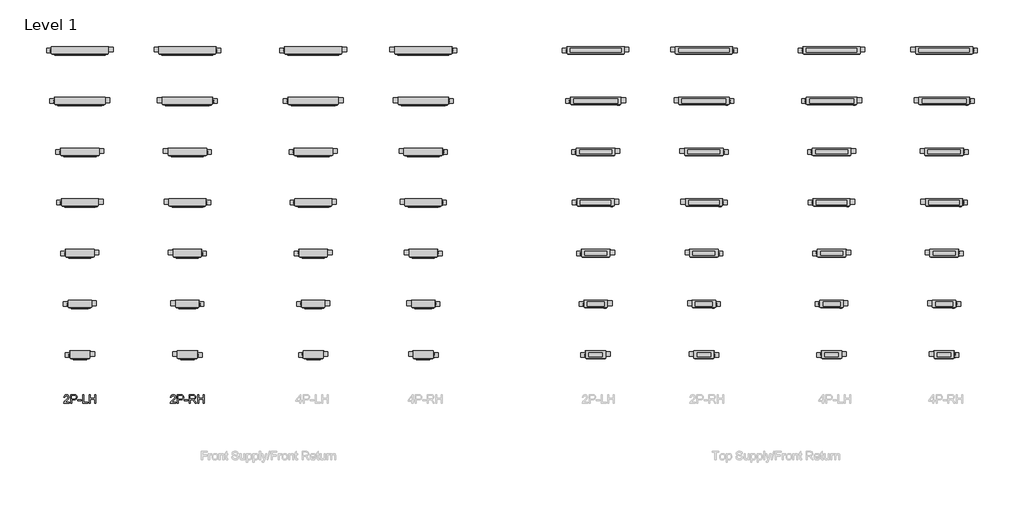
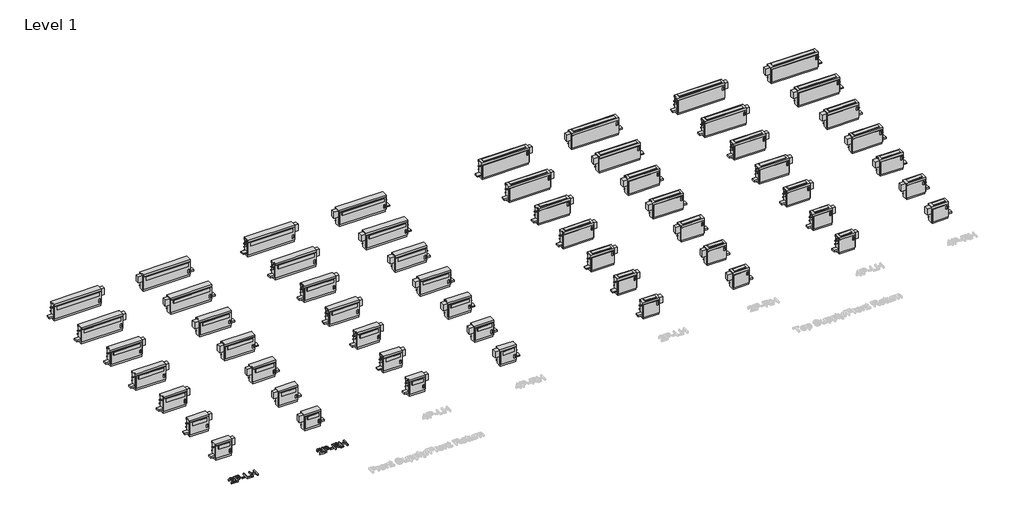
# One storey, part 1 of 3: 58 proxies.
"""IFC4 building model written with IfcOpenShell, lengths in millimetres."""

from ifc_helpers import new_model, si_unit, origin, origin_with_axes, place, context, project, spatial, polyline, outline, extrude, transform, mapped, element, save
from components import fha_02_94c6c80d, fha_02_6b9d32cf, fha_02_43abc2e7, fha_02_d0d8a334, fha_02_b8cbda28, fha_02_48b6a298, fha_02_fc1f7e35, fha_02_802e25d1, fha_03_051e9402, fha_03_dd271106, fha_03_7d003db8, fha_03_dce14b14, fha_03_b07dfba9, fha_03_0a466d53, fha_03_22e4d523, fha_03_e5284e9b, fha_04_7ede1e6b, fha_04_9694f687, fha_04_ae905168, fha_04_b99a19b0, fha_04_8b7462a0, fha_04_1860a677, fha_04_cc32cb2f, fha_04_b0cafbec, fha_06_5fccc806, fha_06_5ad67739, fha_06_63c93824, fha_06_a003a1de, fha_06_ecc1758d, fha_06_32068518, fha_06_2580c875, fha_06_6cc8bb4f, fha_08_c3b81369, fha_08_85082c4c, fha_08_7497d612, fha_08_348aac9a, fha_08_e0f1e65a, fha_08_1924b849, fha_08_3f7fb936, fha_08_7689c4cf, fha_10_7997b192, fha_10_e1ab0dcf, fha_10_db376b64, fha_10_04a492d7, fha_10_318577b4, fha_10_918f5362, fha_10_a3db949a, fha_10_9c9e8b07, fha_12_ffb116b9, fha_12_b9f33cbb, fha_12_aa732288, fha_12_0b8164c2, fha_12_b28fb9b4, fha_12_9516c50a, fha_12_9ba54ef7, fha_12_c1f296c9

model = new_model("IFC4")

# Units and contexts
model_context = context("Model", 3, world=origin())
ifc_project = project(units=[si_unit("LENGTHUNIT", "METRE", prefix="MILLI")], contexts=[model_context])

# Site, building, storey
site = spatial("IfcSite", under=ifc_project)
building = spatial("IfcBuilding", under=site)
storey = spatial("IfcBuildingStorey", under=building, Name="Level 1", Elevation=0.0)

# Proxies
placement = place(None, origin())
element("IfcBuildingElementProxy", 1, Name="24\" Arial", ObjectType="24\" Arial", at=placement, inside=storey, context=model_context, shape_type="SweptSolid", body=[
    extrude(outline(polyline([(-19722.253563, -2640.538898), (-19722.253563, -2672.4337764), (-19889.701675, -2672.4337764), (-19886.2754673, -2650.4437528), (-19878.4107634, -2633.2582067), (-19866.9018205, -2616.5865918), (-19826.9709277, -2579.6146965), (-19792.5531145, -2549.0435801), (-19771.9024266, -2526.4773306), (-19761.5770826, -2508.1626934), (-19758.1353013, -2490.3464136), (-19761.3824117, -2474.3756138), (-19771.123743, -2461.0990592), (-19786.0978278, -2452.1519851), (-19805.0431987, -2449.1696271), (-19824.9385636, -2452.0819036), (-19840.3954322, -2460.8187331), (-19850.3703686, -2474.6948741), (-19853.8199367, -2493.025085), (-19885.7148152, -2489.0382252), (-19877.9824875, -2458.1867827), (-19861.2641515, -2435.6516806), (-19836.4319329, -2421.8689816), (-19804.3579572, -2417.2747487), (-19772.0503764, -2422.3829128), (-19747.2648788, -2437.7074052), (-19731.4965368, -2460.6007017), (-19726.2404228, -2488.4152784), (-19731.9092391, -2518.6593477), (-19750.7533812, -2549.9312793), (-19796.4465323, -2593.6310005), (-19833.1381014, -2624.3111326), (-19847.5281736, -2640.538898), (-19722.253563, -2640.538898)])), origin_with_axes(), (0.0, 0.0, 1.0), 50.8),
    extrude(outline(polyline([(-19678.3981051, -2672.4337764), (-19678.3981051, -2417.2747487), (-19583.834774, -2417.2747487), (-19545.7104271, -2419.7042414), (-19528.7117651, -2424.2439665), (-19514.7188215, -2431.6336734), (-19503.4512705, -2442.2081961), (-19494.6287858, -2456.3023685), (-19488.9288222, -2472.9272624), (-19487.0288343, -2491.0939498), (-19492.1603589, -2521.1667088), (-19507.5549328, -2546.2247456), (-19519.8834402, -2556.0906663), (-19536.3428639, -2563.1377525), (-19556.9332038, -2567.3660042), (-19581.6544601, -2568.7754214), (-19646.5032266, -2568.7754214), (-19646.5032266, -2672.4337764), (-19678.3981051, -2672.4337764)]), holes=[polyline([(-19646.5032266, -2536.8805429), (-19579.7856195, -2536.8805429), (-19551.5038327, -2533.9526928), (-19532.8154274, -2525.1691422), (-19522.3966414, -2511.0749699), (-19518.9237127, -2492.2152541), (-19520.9716505, -2477.8874767), (-19527.1154638, -2465.8023079), (-19536.5920426, -2456.707284), (-19548.6382773, -2451.3499411), (-19580.5331557, -2449.1696271), (-19646.5032266, -2449.1696271), (-19646.5032266, -2536.8805429)])]), origin_with_axes(), (0.0, 0.0, 1.0), 50.8),
    extrude(outline(polyline([(-19463.1076754, -2596.6834401), (-19463.1076754, -2564.7885616), (-19363.4361802, -2564.7885616), (-19363.4361802, -2596.6834401), (-19463.1076754, -2596.6834401)])), origin_with_axes(), (0.0, 0.0, 1.0), 50.8),
    extrude(outline(polyline([(-19323.5675821, -2672.4337764), (-19323.5675821, -2417.2747487), (-19291.6727036, -2417.2747487), (-19291.6727036, -2640.538898), (-19164.0931897, -2640.538898), (-19164.0931897, -2672.4337764), (-19323.5675821, -2672.4337764)])), origin_with_axes(), (0.0, 0.0, 1.0), 50.8),
    extrude(outline(polyline([(-19128.2114515, -2672.4337764), (-19128.2114515, -2417.2747487), (-19096.316573, -2417.2747487), (-19096.316573, -2520.9331037), (-18960.7633395, -2520.9331037), (-18960.7633395, -2417.2747487), (-18928.868461, -2417.2747487), (-18928.868461, -2672.4337764), (-18960.7633395, -2672.4337764), (-18960.7633395, -2552.8279822), (-19096.316573, -2552.8279822), (-19096.316573, -2672.4337764), (-19128.2114515, -2672.4337764)])), origin_with_axes(), (0.0, 0.0, 1.0), 50.8),
])
element("IfcBuildingElementProxy", 2, Name="24\" Arial", ObjectType="24\" Arial", at=placement, inside=storey, context=model_context, shape_type="SweptSolid", body=[
    extrude(outline(polyline([(-16520.9749359, -2640.538898), (-16520.9749359, -2672.4337764), (-16688.4230479, -2672.4337764), (-16684.9968402, -2650.4437528), (-16677.1321363, -2633.2582067), (-16665.6231934, -2616.5865918), (-16625.6923006, -2579.6146965), (-16591.2744874, -2549.0435801), (-16570.6237995, -2526.4773306), (-16560.2984555, -2508.1626934), (-16556.8566742, -2490.3464136), (-16560.1037846, -2474.3756138), (-16569.8451159, -2461.0990592), (-16584.8192007, -2452.1519851), (-16603.7645716, -2449.1696271), (-16623.6599365, -2452.0819036), (-16639.1168051, -2460.8187331), (-16649.0917415, -2474.6948741), (-16652.5413096, -2493.025085), (-16684.4361881, -2489.0382252), (-16676.7038604, -2458.1867827), (-16659.9855244, -2435.6516806), (-16635.1533058, -2421.8689816), (-16603.0793301, -2417.2747487), (-16570.7717494, -2422.3829128), (-16545.9862517, -2437.7074052), (-16530.2179097, -2460.6007017), (-16524.9617957, -2488.4152784), (-16530.630612, -2518.6593477), (-16549.4747541, -2549.9312793), (-16595.1679052, -2593.6310005), (-16631.8594744, -2624.3111326), (-16646.2495465, -2640.538898), (-16520.9749359, -2640.538898)])), origin_with_axes(), (0.0, 0.0, 1.0), 50.8),
    extrude(outline(polyline([(-16477.119478, -2672.4337764), (-16477.119478, -2417.2747487), (-16382.5561469, -2417.2747487), (-16344.4318, -2419.7042414), (-16327.433138, -2424.2439665), (-16313.4401944, -2431.6336734), (-16302.1726434, -2442.2081961), (-16293.3501587, -2456.3023685), (-16287.6501951, -2472.9272624), (-16285.7502072, -2491.0939498), (-16290.8817318, -2521.1667088), (-16306.2763057, -2546.2247456), (-16318.6048131, -2556.0906663), (-16335.0642368, -2563.1377525), (-16355.6545768, -2567.3660042), (-16380.375833, -2568.7754214), (-16445.2245995, -2568.7754214), (-16445.2245995, -2672.4337764), (-16477.119478, -2672.4337764)]), holes=[polyline([(-16445.2245995, -2536.8805429), (-16378.5069924, -2536.8805429), (-16350.2252057, -2533.9526928), (-16331.5368003, -2525.1691422), (-16321.1180143, -2511.0749699), (-16317.6450857, -2492.2152541), (-16319.6930234, -2477.8874767), (-16325.8368367, -2465.8023079), (-16335.3134155, -2456.707284), (-16347.3596502, -2451.3499411), (-16379.2545286, -2449.1696271), (-16445.2245995, -2449.1696271), (-16445.2245995, -2536.8805429)])]), origin_with_axes(), (0.0, 0.0, 1.0), 50.8),
    extrude(outline(polyline([(-16261.8290483, -2596.6834401), (-16261.8290483, -2564.7885616), (-16162.1575531, -2564.7885616), (-16162.1575531, -2596.6834401), (-16261.8290483, -2596.6834401)])), origin_with_axes(), (0.0, 0.0, 1.0), 50.8),
    extrude(outline(polyline([(-16122.288955, -2672.4337764), (-16122.288955, -2417.2747487), (-16012.3388368, -2417.2747487), (-15982.7877959, -2418.9956393), (-15961.2883429, -2424.1583113), (-15945.5745087, -2433.689398), (-15933.3803242, -2448.5155329), (-15925.5545545, -2466.9002517), (-15922.9459646, -2487.10709), (-15927.2676583, -2512.2429952), (-15940.2327395, -2533.0805672), (-15962.23055, -2548.3583385), (-15993.6504315, -2556.814842), (-15975.5226783, -2570.4573779), (-15949.6703842, -2603.2866766), (-15907.1231147, -2672.4337764), (-15944.188452, -2672.4337764), (-15977.3915188, -2619.5455893), (-16001.3749724, -2584.5359766), (-16018.2256845, -2567.9967378), (-16033.3944402, -2561.9230061), (-16051.8959615, -2560.8017018), (-16090.3940765, -2560.8017018), (-16090.3940765, -2672.4337764), (-16122.288955, -2672.4337764)]), holes=[polyline([(-16090.3940765, -2528.9068233), (-16019.0043681, -2528.9068233), (-15982.593125, -2524.3904587), (-15970.6169719, -2518.5191847), (-15961.9112897, -2509.9380919), (-15956.6084547, -2499.5582401), (-15954.840843, -2488.290689), (-15958.2125428, -2472.7325915), (-15968.3276422, -2460.1957863), (-15985.7312197, -2451.9261669), (-16010.9683538, -2449.1696271), (-16090.3940765, -2449.1696271), (-16090.3940765, -2528.9068233)])]), origin_with_axes(), (0.0, 0.0, 1.0), 50.8),
    extrude(outline(polyline([(-15867.1299272, -2672.4337764), (-15867.1299272, -2417.2747487), (-15835.2350488, -2417.2747487), (-15835.2350488, -2520.9331037), (-15699.6818152, -2520.9331037), (-15699.6818152, -2417.2747487), (-15667.7869368, -2417.2747487), (-15667.7869368, -2672.4337764), (-15699.6818152, -2672.4337764), (-15699.6818152, -2552.8279822), (-15835.2350488, -2552.8279822), (-15835.2350488, -2672.4337764), (-15867.1299272, -2672.4337764)])), origin_with_axes(), (0.0, 0.0, 1.0), 50.8),
])
fha_02_shape = fha_02_94c6c80d(model_context)
element("IfcBuildingElementProxy", 3, Name="Vertical_Fan_Coil_Unit_-_FHA_-_IEC_-_4-Pipe_TS-FR_RH_2022 : FHA 02", ObjectType="Vertical_Fan_Coil_Unit_-_FHA_-_IEC_-_4-Pipe_TS-FR_RH_2022 : FHA 02", at=placement, inside=storey, context=model_context, shape_type="MappedRepresentation", body=[
    mapped(fha_02_shape, transform((6404.5084149, -1345.1156597, 0.0), x_axis=(1.0, 0.0, 0.0), y_axis=(0.0, 1.0, 0.0), z_axis=(0.0, 0.0, 1.0))),
])
fha_02_2_shape = fha_02_6b9d32cf(model_context)
element("IfcBuildingElementProxy", 4, Name="Vertical_Fan_Coil_Unit_-_FHA_-_IEC_-_2-Pipe_FS-FR_LH_2022 : FHA 02", ObjectType="Vertical_Fan_Coil_Unit_-_FHA_-_IEC_-_2-Pipe_FS-FR_LH_2022 : FHA 02", at=placement, inside=storey, context=model_context, shape_type="MappedRepresentation", body=[
    mapped(fha_02_2_shape, transform((-19554.2915851, -1345.1156597, 0.0), x_axis=(1.0, 0.0, 0.0), y_axis=(0.0, 1.0, 0.0), z_axis=(0.0, 0.0, 1.0))),
])
fha_02_3_shape = fha_02_43abc2e7(model_context)
element("IfcBuildingElementProxy", 5, Name="Vertical_Fan_Coil_Unit_-_FHA_-_IEC_-_2-Pipe_FS-FR_RH_2022 : FHA 02", ObjectType="Vertical_Fan_Coil_Unit_-_FHA_-_IEC_-_2-Pipe_FS-FR_RH_2022 : FHA 02", at=placement, inside=storey, context=model_context, shape_type="MappedRepresentation", body=[
    mapped(fha_02_3_shape, transform((-16328.4915851, -1345.1156597, 0.0), x_axis=(1.0, 0.0, 0.0), y_axis=(0.0, 1.0, 0.0), z_axis=(0.0, 0.0, 1.0))),
])
fha_02_4_shape = fha_02_d0d8a334(model_context)
element("IfcBuildingElementProxy", 6, Name="Vertical_Fan_Coil_Unit_-_FHA_-_IEC_-_2-Pipe_TS-FR_LH_2022 : FHA 02", ObjectType="Vertical_Fan_Coil_Unit_-_FHA_-_IEC_-_2-Pipe_TS-FR_LH_2022 : FHA 02", at=placement, inside=storey, context=model_context, shape_type="MappedRepresentation", body=[
    mapped(fha_02_4_shape, transform((-4060.2915851, -1345.1156597, 0.0), x_axis=(1.0, 0.0, 0.0), y_axis=(0.0, 1.0, 0.0), z_axis=(0.0, 0.0, 1.0))),
])
fha_02_5_shape = fha_02_b8cbda28(model_context)
element("IfcBuildingElementProxy", 7, Name="Vertical_Fan_Coil_Unit_-_FHA_-_IEC_-_2-Pipe_TS-FR_RH_2022 : FHA 02", ObjectType="Vertical_Fan_Coil_Unit_-_FHA_-_IEC_-_2-Pipe_TS-FR_RH_2022 : FHA 02", at=placement, inside=storey, context=model_context, shape_type="MappedRepresentation", body=[
    mapped(fha_02_5_shape, transform((-809.0915851, -1345.1156597, 0.0), x_axis=(1.0, 0.0, 0.0), y_axis=(0.0, 1.0, 0.0), z_axis=(0.0, 0.0, 1.0))),
])
fha_02_6_shape = fha_02_48b6a298(model_context)
element("IfcBuildingElementProxy", 8, Name="Vertical_Fan_Coil_Unit_-_FHA_-_IEC_-_4-Pipe_FS-FR_LH_2022 : FHA 02", ObjectType="Vertical_Fan_Coil_Unit_-_FHA_-_IEC_-_4-Pipe_FS-FR_LH_2022 : FHA 02", at=placement, inside=storey, context=model_context, shape_type="MappedRepresentation", body=[
    mapped(fha_02_6_shape, transform((-12543.8915851, -1345.1156597, 0.0), x_axis=(1.0, 0.0, 0.0), y_axis=(0.0, 1.0, 0.0), z_axis=(0.0, 0.0, 1.0))),
])
fha_02_7_shape = fha_02_fc1f7e35(model_context)
element("IfcBuildingElementProxy", 9, Name="Vertical_Fan_Coil_Unit_-_FHA_-_IEC_-_4-Pipe_FS-FR_RH_2022 : FHA 02", ObjectType="Vertical_Fan_Coil_Unit_-_FHA_-_IEC_-_4-Pipe_FS-FR_RH_2022 : FHA 02", at=placement, inside=storey, context=model_context, shape_type="MappedRepresentation", body=[
    mapped(fha_02_7_shape, transform((-9241.8915851, -1345.1156597, 0.0), x_axis=(1.0, 0.0, 0.0), y_axis=(0.0, 1.0, 0.0), z_axis=(0.0, 0.0, 1.0))),
])
fha_02_8_shape = fha_02_802e25d1(model_context)
element("IfcBuildingElementProxy", 10, Name="Vertical_Fan_Coil_Unit_-_FHA_-_IEC_-_4-Pipe_TS-FR_LH_2022 : FHA 02", ObjectType="Vertical_Fan_Coil_Unit_-_FHA_-_IEC_-_4-Pipe_TS-FR_LH_2022 : FHA 02", at=placement, inside=storey, context=model_context, shape_type="MappedRepresentation", body=[
    mapped(fha_02_8_shape, transform((3026.3084149, -1345.1156597, 0.0), x_axis=(1.0, 0.0, 0.0), y_axis=(0.0, 1.0, 0.0), z_axis=(0.0, 0.0, 1.0))),
])
fha_03_shape = fha_03_051e9402(model_context)
element("IfcBuildingElementProxy", 11, Name="Vertical_Fan_Coil_Unit_-_FHA_-_IEC_-_4-Pipe_TS-FR_RH_2022 : FHA 03", ObjectType="Vertical_Fan_Coil_Unit_-_FHA_-_IEC_-_4-Pipe_TS-FR_RH_2022 : FHA 03", at=placement, inside=storey, context=model_context, shape_type="MappedRepresentation", body=[
    mapped(fha_03_shape, transform((6404.5084149, 178.8843403, 0.0), x_axis=(1.0, 0.0, 0.0), y_axis=(0.0, 1.0, 0.0), z_axis=(0.0, 0.0, 1.0))),
])
fha_03_2_shape = fha_03_dd271106(model_context)
element("IfcBuildingElementProxy", 12, Name="Vertical_Fan_Coil_Unit_-_FHA_-_IEC_-_2-Pipe_FS-FR_LH_2022 : FHA 03", ObjectType="Vertical_Fan_Coil_Unit_-_FHA_-_IEC_-_2-Pipe_FS-FR_LH_2022 : FHA 03", at=placement, inside=storey, context=model_context, shape_type="MappedRepresentation", body=[
    mapped(fha_03_2_shape, transform((-19554.2915851, 178.8843403, 0.0), x_axis=(1.0, 0.0, 0.0), y_axis=(0.0, 1.0, 0.0), z_axis=(0.0, 0.0, 1.0))),
])
fha_03_3_shape = fha_03_7d003db8(model_context)
element("IfcBuildingElementProxy", 13, Name="Vertical_Fan_Coil_Unit_-_FHA_-_IEC_-_2-Pipe_FS-FR_RH_2022 : FHA 03", ObjectType="Vertical_Fan_Coil_Unit_-_FHA_-_IEC_-_2-Pipe_FS-FR_RH_2022 : FHA 03", at=placement, inside=storey, context=model_context, shape_type="MappedRepresentation", body=[
    mapped(fha_03_3_shape, transform((-16328.4915851, 178.8843403, 0.0), x_axis=(1.0, 0.0, 0.0), y_axis=(0.0, 1.0, 0.0), z_axis=(0.0, 0.0, 1.0))),
])
fha_03_4_shape = fha_03_dce14b14(model_context)
element("IfcBuildingElementProxy", 14, Name="Vertical_Fan_Coil_Unit_-_FHA_-_IEC_-_2-Pipe_TS-FR_LH_2022 : FHA 03", ObjectType="Vertical_Fan_Coil_Unit_-_FHA_-_IEC_-_2-Pipe_TS-FR_LH_2022 : FHA 03", at=placement, inside=storey, context=model_context, shape_type="MappedRepresentation", body=[
    mapped(fha_03_4_shape, transform((-4060.2915851, 178.8843403, 0.0), x_axis=(1.0, 0.0, 0.0), y_axis=(0.0, 1.0, 0.0), z_axis=(0.0, 0.0, 1.0))),
])
fha_03_5_shape = fha_03_b07dfba9(model_context)
element("IfcBuildingElementProxy", 15, Name="Vertical_Fan_Coil_Unit_-_FHA_-_IEC_-_2-Pipe_TS-FR_RH_2022 : FHA 03", ObjectType="Vertical_Fan_Coil_Unit_-_FHA_-_IEC_-_2-Pipe_TS-FR_RH_2022 : FHA 03", at=placement, inside=storey, context=model_context, shape_type="MappedRepresentation", body=[
    mapped(fha_03_5_shape, transform((-809.0915851, 178.8843403, 0.0), x_axis=(1.0, 0.0, 0.0), y_axis=(0.0, 1.0, 0.0), z_axis=(0.0, 0.0, 1.0))),
])
fha_03_6_shape = fha_03_0a466d53(model_context)
element("IfcBuildingElementProxy", 16, Name="Vertical_Fan_Coil_Unit_-_FHA_-_IEC_-_4-Pipe_FS-FR_LH_2022 : FHA 03", ObjectType="Vertical_Fan_Coil_Unit_-_FHA_-_IEC_-_4-Pipe_FS-FR_LH_2022 : FHA 03", at=placement, inside=storey, context=model_context, shape_type="MappedRepresentation", body=[
    mapped(fha_03_6_shape, transform((-12543.8915851, 178.8843403, 0.0), x_axis=(1.0, 0.0, 0.0), y_axis=(0.0, 1.0, 0.0), z_axis=(0.0, 0.0, 1.0))),
])
fha_03_7_shape = fha_03_22e4d523(model_context)
element("IfcBuildingElementProxy", 17, Name="Vertical_Fan_Coil_Unit_-_FHA_-_IEC_-_4-Pipe_FS-FR_RH_2022 : FHA 03", ObjectType="Vertical_Fan_Coil_Unit_-_FHA_-_IEC_-_4-Pipe_FS-FR_RH_2022 : FHA 03", at=placement, inside=storey, context=model_context, shape_type="MappedRepresentation", body=[
    mapped(fha_03_7_shape, transform((-9241.8915851, 178.8843403, 0.0), x_axis=(1.0, 0.0, 0.0), y_axis=(0.0, 1.0, 0.0), z_axis=(0.0, 0.0, 1.0))),
])
fha_03_8_shape = fha_03_e5284e9b(model_context)
element("IfcBuildingElementProxy", 18, Name="Vertical_Fan_Coil_Unit_-_FHA_-_IEC_-_4-Pipe_TS-FR_LH_2022 : FHA 03", ObjectType="Vertical_Fan_Coil_Unit_-_FHA_-_IEC_-_4-Pipe_TS-FR_LH_2022 : FHA 03", at=placement, inside=storey, context=model_context, shape_type="MappedRepresentation", body=[
    mapped(fha_03_8_shape, transform((3026.3084149, 178.8843403, 0.0), x_axis=(1.0, 0.0, 0.0), y_axis=(0.0, 1.0, 0.0), z_axis=(0.0, 0.0, 1.0))),
])
fha_04_shape = fha_04_7ede1e6b(model_context)
element("IfcBuildingElementProxy", 19, Name="Vertical_Fan_Coil_Unit_-_FHA_-_IEC_-_4-Pipe_TS-FR_RH_2022 : FHA 04", ObjectType="Vertical_Fan_Coil_Unit_-_FHA_-_IEC_-_4-Pipe_TS-FR_RH_2022 : FHA 04", at=placement, inside=storey, context=model_context, shape_type="MappedRepresentation", body=[
    mapped(fha_04_shape, transform((6404.5084149, 1702.8843403, 0.0), x_axis=(1.0, 0.0, 0.0), y_axis=(0.0, 1.0, 0.0), z_axis=(0.0, 0.0, 1.0))),
])
fha_04_2_shape = fha_04_9694f687(model_context)
element("IfcBuildingElementProxy", 20, Name="Vertical_Fan_Coil_Unit_-_FHA_-_IEC_-_2-Pipe_FS-FR_LH_2022 : FHA 04", ObjectType="Vertical_Fan_Coil_Unit_-_FHA_-_IEC_-_2-Pipe_FS-FR_LH_2022 : FHA 04", at=placement, inside=storey, context=model_context, shape_type="MappedRepresentation", body=[
    mapped(fha_04_2_shape, transform((-19554.2915851, 1702.8843403, 0.0), x_axis=(1.0, 0.0, 0.0), y_axis=(0.0, 1.0, 0.0), z_axis=(0.0, 0.0, 1.0))),
])
fha_04_3_shape = fha_04_ae905168(model_context)
element("IfcBuildingElementProxy", 21, Name="Vertical_Fan_Coil_Unit_-_FHA_-_IEC_-_2-Pipe_FS-FR_RH_2022 : FHA 04", ObjectType="Vertical_Fan_Coil_Unit_-_FHA_-_IEC_-_2-Pipe_FS-FR_RH_2022 : FHA 04", at=placement, inside=storey, context=model_context, shape_type="MappedRepresentation", body=[
    mapped(fha_04_3_shape, transform((-16328.4915851, 1702.8843403, 0.0), x_axis=(1.0, 0.0, 0.0), y_axis=(0.0, 1.0, 0.0), z_axis=(0.0, 0.0, 1.0))),
])
fha_04_4_shape = fha_04_b99a19b0(model_context)
element("IfcBuildingElementProxy", 22, Name="Vertical_Fan_Coil_Unit_-_FHA_-_IEC_-_2-Pipe_TS-FR_LH_2022 : FHA 04", ObjectType="Vertical_Fan_Coil_Unit_-_FHA_-_IEC_-_2-Pipe_TS-FR_LH_2022 : FHA 04", at=placement, inside=storey, context=model_context, shape_type="MappedRepresentation", body=[
    mapped(fha_04_4_shape, transform((-4060.2915851, 1702.8843403, 0.0), x_axis=(1.0, 0.0, 0.0), y_axis=(0.0, 1.0, 0.0), z_axis=(0.0, 0.0, 1.0))),
])
fha_04_5_shape = fha_04_8b7462a0(model_context)
element("IfcBuildingElementProxy", 23, Name="Vertical_Fan_Coil_Unit_-_FHA_-_IEC_-_2-Pipe_TS-FR_RH_2022 : FHA 04", ObjectType="Vertical_Fan_Coil_Unit_-_FHA_-_IEC_-_2-Pipe_TS-FR_RH_2022 : FHA 04", at=placement, inside=storey, context=model_context, shape_type="MappedRepresentation", body=[
    mapped(fha_04_5_shape, transform((-809.0915851, 1702.8843403, 0.0), x_axis=(1.0, 0.0, 0.0), y_axis=(0.0, 1.0, 0.0), z_axis=(0.0, 0.0, 1.0))),
])
fha_04_6_shape = fha_04_1860a677(model_context)
element("IfcBuildingElementProxy", 24, Name="Vertical_Fan_Coil_Unit_-_FHA_-_IEC_-_4-Pipe_FS-FR_LH_2022 : FHA 04", ObjectType="Vertical_Fan_Coil_Unit_-_FHA_-_IEC_-_4-Pipe_FS-FR_LH_2022 : FHA 04", at=placement, inside=storey, context=model_context, shape_type="MappedRepresentation", body=[
    mapped(fha_04_6_shape, transform((-12543.8915851, 1702.8843403, 0.0), x_axis=(1.0, 0.0, 0.0), y_axis=(0.0, 1.0, 0.0), z_axis=(0.0, 0.0, 1.0))),
])
fha_04_7_shape = fha_04_cc32cb2f(model_context)
element("IfcBuildingElementProxy", 25, Name="Vertical_Fan_Coil_Unit_-_FHA_-_IEC_-_4-Pipe_FS-FR_RH_2022 : FHA 04", ObjectType="Vertical_Fan_Coil_Unit_-_FHA_-_IEC_-_4-Pipe_FS-FR_RH_2022 : FHA 04", at=placement, inside=storey, context=model_context, shape_type="MappedRepresentation", body=[
    mapped(fha_04_7_shape, transform((-9241.8915851, 1702.8843403, 0.0), x_axis=(1.0, 0.0, 0.0), y_axis=(0.0, 1.0, 0.0), z_axis=(0.0, 0.0, 1.0))),
])
fha_04_8_shape = fha_04_b0cafbec(model_context)
element("IfcBuildingElementProxy", 26, Name="Vertical_Fan_Coil_Unit_-_FHA_-_IEC_-_4-Pipe_TS-FR_LH_2022 : FHA 04", ObjectType="Vertical_Fan_Coil_Unit_-_FHA_-_IEC_-_4-Pipe_TS-FR_LH_2022 : FHA 04", at=placement, inside=storey, context=model_context, shape_type="MappedRepresentation", body=[
    mapped(fha_04_8_shape, transform((3026.3084149, 1702.8843403, 0.0), x_axis=(1.0, 0.0, 0.0), y_axis=(0.0, 1.0, 0.0), z_axis=(0.0, 0.0, 1.0))),
])
fha_06_shape = fha_06_5fccc806(model_context)
element("IfcBuildingElementProxy", 27, Name="Vertical_Fan_Coil_Unit_-_FHA_-_IEC_-_4-Pipe_TS-FR_RH_2022 : FHA 06", ObjectType="Vertical_Fan_Coil_Unit_-_FHA_-_IEC_-_4-Pipe_TS-FR_RH_2022 : FHA 06", at=placement, inside=storey, context=model_context, shape_type="MappedRepresentation", body=[
    mapped(fha_06_shape, transform((6404.5084149, 3226.8843403, 0.0), x_axis=(1.0, 0.0, 0.0), y_axis=(0.0, 1.0, 0.0), z_axis=(0.0, 0.0, 1.0))),
])
fha_06_2_shape = fha_06_5ad67739(model_context)
element("IfcBuildingElementProxy", 28, Name="Vertical_Fan_Coil_Unit_-_FHA_-_IEC_-_2-Pipe_FS-FR_LH_2022 : FHA 06", ObjectType="Vertical_Fan_Coil_Unit_-_FHA_-_IEC_-_2-Pipe_FS-FR_LH_2022 : FHA 06", at=placement, inside=storey, context=model_context, shape_type="MappedRepresentation", body=[
    mapped(fha_06_2_shape, transform((-19554.2915851, 3226.8843403, 0.0), x_axis=(1.0, 0.0, 0.0), y_axis=(0.0, 1.0, 0.0), z_axis=(0.0, 0.0, 1.0))),
])
fha_06_3_shape = fha_06_63c93824(model_context)
element("IfcBuildingElementProxy", 29, Name="Vertical_Fan_Coil_Unit_-_FHA_-_IEC_-_2-Pipe_FS-FR_RH_2022 : FHA 06", ObjectType="Vertical_Fan_Coil_Unit_-_FHA_-_IEC_-_2-Pipe_FS-FR_RH_2022 : FHA 06", at=placement, inside=storey, context=model_context, shape_type="MappedRepresentation", body=[
    mapped(fha_06_3_shape, transform((-16328.4915851, 3226.8843403, 0.0), x_axis=(1.0, 0.0, 0.0), y_axis=(0.0, 1.0, 0.0), z_axis=(0.0, 0.0, 1.0))),
])
fha_06_4_shape = fha_06_a003a1de(model_context)
element("IfcBuildingElementProxy", 30, Name="Vertical_Fan_Coil_Unit_-_FHA_-_IEC_-_2-Pipe_TS-FR_LH_2022 : FHA 06", ObjectType="Vertical_Fan_Coil_Unit_-_FHA_-_IEC_-_2-Pipe_TS-FR_LH_2022 : FHA 06", at=placement, inside=storey, context=model_context, shape_type="MappedRepresentation", body=[
    mapped(fha_06_4_shape, transform((-4060.2915851, 3226.8843403, 0.0), x_axis=(1.0, 0.0, 0.0), y_axis=(0.0, 1.0, 0.0), z_axis=(0.0, 0.0, 1.0))),
])
fha_06_5_shape = fha_06_ecc1758d(model_context)
element("IfcBuildingElementProxy", 31, Name="Vertical_Fan_Coil_Unit_-_FHA_-_IEC_-_2-Pipe_TS-FR_RH_2022 : FHA 06", ObjectType="Vertical_Fan_Coil_Unit_-_FHA_-_IEC_-_2-Pipe_TS-FR_RH_2022 : FHA 06", at=placement, inside=storey, context=model_context, shape_type="MappedRepresentation", body=[
    mapped(fha_06_5_shape, transform((-809.0915851, 3226.8843403, 0.0), x_axis=(1.0, 0.0, 0.0), y_axis=(0.0, 1.0, 0.0), z_axis=(0.0, 0.0, 1.0))),
])
fha_06_6_shape = fha_06_32068518(model_context)
element("IfcBuildingElementProxy", 32, Name="Vertical_Fan_Coil_Unit_-_FHA_-_IEC_-_4-Pipe_FS-FR_LH_2022 : FHA 06", ObjectType="Vertical_Fan_Coil_Unit_-_FHA_-_IEC_-_4-Pipe_FS-FR_LH_2022 : FHA 06", at=placement, inside=storey, context=model_context, shape_type="MappedRepresentation", body=[
    mapped(fha_06_6_shape, transform((-12543.8915851, 3226.8843403, 0.0), x_axis=(1.0, 0.0, 0.0), y_axis=(0.0, 1.0, 0.0), z_axis=(0.0, 0.0, 1.0))),
])
fha_06_7_shape = fha_06_2580c875(model_context)
element("IfcBuildingElementProxy", 33, Name="Vertical_Fan_Coil_Unit_-_FHA_-_IEC_-_4-Pipe_FS-FR_RH_2022 : FHA 06", ObjectType="Vertical_Fan_Coil_Unit_-_FHA_-_IEC_-_4-Pipe_FS-FR_RH_2022 : FHA 06", at=placement, inside=storey, context=model_context, shape_type="MappedRepresentation", body=[
    mapped(fha_06_7_shape, transform((-9241.8915851, 3226.8843403, 0.0), x_axis=(1.0, 0.0, 0.0), y_axis=(0.0, 1.0, 0.0), z_axis=(0.0, 0.0, 1.0))),
])
fha_06_8_shape = fha_06_6cc8bb4f(model_context)
element("IfcBuildingElementProxy", 34, Name="Vertical_Fan_Coil_Unit_-_FHA_-_IEC_-_4-Pipe_TS-FR_LH_2022 : FHA 06", ObjectType="Vertical_Fan_Coil_Unit_-_FHA_-_IEC_-_4-Pipe_TS-FR_LH_2022 : FHA 06", at=placement, inside=storey, context=model_context, shape_type="MappedRepresentation", body=[
    mapped(fha_06_8_shape, transform((3026.3084149, 3226.8843403, 0.0), x_axis=(1.0, 0.0, 0.0), y_axis=(0.0, 1.0, 0.0), z_axis=(0.0, 0.0, 1.0))),
])
fha_08_shape = fha_08_c3b81369(model_context)
element("IfcBuildingElementProxy", 35, Name="Vertical_Fan_Coil_Unit_-_FHA_-_IEC_-_4-Pipe_TS-FR_RH_2022 : FHA 08", ObjectType="Vertical_Fan_Coil_Unit_-_FHA_-_IEC_-_4-Pipe_TS-FR_RH_2022 : FHA 08", at=placement, inside=storey, context=model_context, shape_type="MappedRepresentation", body=[
    mapped(fha_08_shape, transform((6404.5084149, 4750.8843403, 0.0), x_axis=(1.0, 0.0, 0.0), y_axis=(0.0, 1.0, 0.0), z_axis=(0.0, 0.0, 1.0))),
])
fha_08_2_shape = fha_08_85082c4c(model_context)
element("IfcBuildingElementProxy", 36, Name="Vertical_Fan_Coil_Unit_-_FHA_-_IEC_-_2-Pipe_FS-FR_LH_2022 : FHA 08", ObjectType="Vertical_Fan_Coil_Unit_-_FHA_-_IEC_-_2-Pipe_FS-FR_LH_2022 : FHA 08", at=placement, inside=storey, context=model_context, shape_type="MappedRepresentation", body=[
    mapped(fha_08_2_shape, transform((-19554.2915851, 4750.8843403, 0.0), x_axis=(1.0, 0.0, 0.0), y_axis=(0.0, 1.0, 0.0), z_axis=(0.0, 0.0, 1.0))),
])
fha_08_3_shape = fha_08_7497d612(model_context)
element("IfcBuildingElementProxy", 37, Name="Vertical_Fan_Coil_Unit_-_FHA_-_IEC_-_2-Pipe_FS-FR_RH_2022 : FHA 08", ObjectType="Vertical_Fan_Coil_Unit_-_FHA_-_IEC_-_2-Pipe_FS-FR_RH_2022 : FHA 08", at=placement, inside=storey, context=model_context, shape_type="MappedRepresentation", body=[
    mapped(fha_08_3_shape, transform((-16328.4915851, 4750.8843403, 0.0), x_axis=(1.0, 0.0, 0.0), y_axis=(0.0, 1.0, 0.0), z_axis=(0.0, 0.0, 1.0))),
])
fha_08_4_shape = fha_08_348aac9a(model_context)
element("IfcBuildingElementProxy", 38, Name="Vertical_Fan_Coil_Unit_-_FHA_-_IEC_-_2-Pipe_TS-FR_LH_2022 : FHA 08", ObjectType="Vertical_Fan_Coil_Unit_-_FHA_-_IEC_-_2-Pipe_TS-FR_LH_2022 : FHA 08", at=placement, inside=storey, context=model_context, shape_type="MappedRepresentation", body=[
    mapped(fha_08_4_shape, transform((-4060.2915851, 4750.8843403, 0.0), x_axis=(1.0, 0.0, 0.0), y_axis=(0.0, 1.0, 0.0), z_axis=(0.0, 0.0, 1.0))),
])
fha_08_5_shape = fha_08_e0f1e65a(model_context)
element("IfcBuildingElementProxy", 39, Name="Vertical_Fan_Coil_Unit_-_FHA_-_IEC_-_2-Pipe_TS-FR_RH_2022 : FHA 08", ObjectType="Vertical_Fan_Coil_Unit_-_FHA_-_IEC_-_2-Pipe_TS-FR_RH_2022 : FHA 08", at=placement, inside=storey, context=model_context, shape_type="MappedRepresentation", body=[
    mapped(fha_08_5_shape, transform((-809.0915851, 4750.8843403, 0.0), x_axis=(1.0, 0.0, 0.0), y_axis=(0.0, 1.0, 0.0), z_axis=(0.0, 0.0, 1.0))),
])
fha_08_6_shape = fha_08_1924b849(model_context)
element("IfcBuildingElementProxy", 40, Name="Vertical_Fan_Coil_Unit_-_FHA_-_IEC_-_4-Pipe_FS-FR_LH_2022 : FHA 08", ObjectType="Vertical_Fan_Coil_Unit_-_FHA_-_IEC_-_4-Pipe_FS-FR_LH_2022 : FHA 08", at=placement, inside=storey, context=model_context, shape_type="MappedRepresentation", body=[
    mapped(fha_08_6_shape, transform((-12543.8915851, 4750.8843403, 0.0), x_axis=(1.0, 0.0, 0.0), y_axis=(0.0, 1.0, 0.0), z_axis=(0.0, 0.0, 1.0))),
])
fha_08_7_shape = fha_08_3f7fb936(model_context)
element("IfcBuildingElementProxy", 41, Name="Vertical_Fan_Coil_Unit_-_FHA_-_IEC_-_4-Pipe_FS-FR_RH_2022 : FHA 08", ObjectType="Vertical_Fan_Coil_Unit_-_FHA_-_IEC_-_4-Pipe_FS-FR_RH_2022 : FHA 08", at=placement, inside=storey, context=model_context, shape_type="MappedRepresentation", body=[
    mapped(fha_08_7_shape, transform((-9241.8915851, 4750.8843403, 0.0), x_axis=(1.0, 0.0, 0.0), y_axis=(0.0, 1.0, 0.0), z_axis=(0.0, 0.0, 1.0))),
])
fha_08_8_shape = fha_08_7689c4cf(model_context)
element("IfcBuildingElementProxy", 42, Name="Vertical_Fan_Coil_Unit_-_FHA_-_IEC_-_4-Pipe_TS-FR_LH_2022 : FHA 08", ObjectType="Vertical_Fan_Coil_Unit_-_FHA_-_IEC_-_4-Pipe_TS-FR_LH_2022 : FHA 08", at=placement, inside=storey, context=model_context, shape_type="MappedRepresentation", body=[
    mapped(fha_08_8_shape, transform((3026.3084149, 4750.8843403, 0.0), x_axis=(1.0, 0.0, 0.0), y_axis=(0.0, 1.0, 0.0), z_axis=(0.0, 0.0, 1.0))),
])
fha_10_shape = fha_10_7997b192(model_context)
element("IfcBuildingElementProxy", 43, Name="Vertical_Fan_Coil_Unit_-_FHA_-_IEC_-_4-Pipe_TS-FR_RH_2022 : FHA 10", ObjectType="Vertical_Fan_Coil_Unit_-_FHA_-_IEC_-_4-Pipe_TS-FR_RH_2022 : FHA 10", at=placement, inside=storey, context=model_context, shape_type="MappedRepresentation", body=[
    mapped(fha_10_shape, transform((6404.5084149, 6274.8843403, 0.0), x_axis=(1.0, 0.0, 0.0), y_axis=(0.0, 1.0, 0.0), z_axis=(0.0, 0.0, 1.0))),
])
fha_10_2_shape = fha_10_e1ab0dcf(model_context)
element("IfcBuildingElementProxy", 44, Name="Vertical_Fan_Coil_Unit_-_FHA_-_IEC_-_2-Pipe_FS-FR_LH_2022 : FHA 10", ObjectType="Vertical_Fan_Coil_Unit_-_FHA_-_IEC_-_2-Pipe_FS-FR_LH_2022 : FHA 10", at=placement, inside=storey, context=model_context, shape_type="MappedRepresentation", body=[
    mapped(fha_10_2_shape, transform((-19554.2915851, 6274.8843403, 0.0), x_axis=(1.0, 0.0, 0.0), y_axis=(0.0, 1.0, 0.0), z_axis=(0.0, 0.0, 1.0))),
])
fha_10_3_shape = fha_10_db376b64(model_context)
element("IfcBuildingElementProxy", 45, Name="Vertical_Fan_Coil_Unit_-_FHA_-_IEC_-_2-Pipe_FS-FR_RH_2022 : FHA 10", ObjectType="Vertical_Fan_Coil_Unit_-_FHA_-_IEC_-_2-Pipe_FS-FR_RH_2022 : FHA 10", at=placement, inside=storey, context=model_context, shape_type="MappedRepresentation", body=[
    mapped(fha_10_3_shape, transform((-16328.4915851, 6274.8843403, 0.0), x_axis=(1.0, 0.0, 0.0), y_axis=(0.0, 1.0, 0.0), z_axis=(0.0, 0.0, 1.0))),
])
fha_10_4_shape = fha_10_04a492d7(model_context)
element("IfcBuildingElementProxy", 46, Name="Vertical_Fan_Coil_Unit_-_FHA_-_IEC_-_2-Pipe_TS-FR_LH_2022 : FHA 10", ObjectType="Vertical_Fan_Coil_Unit_-_FHA_-_IEC_-_2-Pipe_TS-FR_LH_2022 : FHA 10", at=placement, inside=storey, context=model_context, shape_type="MappedRepresentation", body=[
    mapped(fha_10_4_shape, transform((-4060.2915851, 6274.8843403, 0.0), x_axis=(1.0, 0.0, 0.0), y_axis=(0.0, 1.0, 0.0), z_axis=(0.0, 0.0, 1.0))),
])
fha_10_5_shape = fha_10_318577b4(model_context)
element("IfcBuildingElementProxy", 47, Name="Vertical_Fan_Coil_Unit_-_FHA_-_IEC_-_2-Pipe_TS-FR_RH_2022 : FHA 10", ObjectType="Vertical_Fan_Coil_Unit_-_FHA_-_IEC_-_2-Pipe_TS-FR_RH_2022 : FHA 10", at=placement, inside=storey, context=model_context, shape_type="MappedRepresentation", body=[
    mapped(fha_10_5_shape, transform((-809.0915851, 6274.8843403, 0.0), x_axis=(1.0, 0.0, 0.0), y_axis=(0.0, 1.0, 0.0), z_axis=(0.0, 0.0, 1.0))),
])
fha_10_6_shape = fha_10_918f5362(model_context)
element("IfcBuildingElementProxy", 48, Name="Vertical_Fan_Coil_Unit_-_FHA_-_IEC_-_4-Pipe_FS-FR_LH_2022 : FHA 10", ObjectType="Vertical_Fan_Coil_Unit_-_FHA_-_IEC_-_4-Pipe_FS-FR_LH_2022 : FHA 10", at=placement, inside=storey, context=model_context, shape_type="MappedRepresentation", body=[
    mapped(fha_10_6_shape, transform((-12543.8915851, 6274.8843403, 0.0), x_axis=(1.0, 0.0, 0.0), y_axis=(0.0, 1.0, 0.0), z_axis=(0.0, 0.0, 1.0))),
])
fha_10_7_shape = fha_10_a3db949a(model_context)
element("IfcBuildingElementProxy", 49, Name="Vertical_Fan_Coil_Unit_-_FHA_-_IEC_-_4-Pipe_FS-FR_RH_2022 : FHA 10", ObjectType="Vertical_Fan_Coil_Unit_-_FHA_-_IEC_-_4-Pipe_FS-FR_RH_2022 : FHA 10", at=placement, inside=storey, context=model_context, shape_type="MappedRepresentation", body=[
    mapped(fha_10_7_shape, transform((-9241.8915851, 6274.8843403, 0.0), x_axis=(1.0, 0.0, 0.0), y_axis=(0.0, 1.0, 0.0), z_axis=(0.0, 0.0, 1.0))),
])
fha_10_8_shape = fha_10_9c9e8b07(model_context)
element("IfcBuildingElementProxy", 50, Name="Vertical_Fan_Coil_Unit_-_FHA_-_IEC_-_4-Pipe_TS-FR_LH_2022 : FHA 10", ObjectType="Vertical_Fan_Coil_Unit_-_FHA_-_IEC_-_4-Pipe_TS-FR_LH_2022 : FHA 10", at=placement, inside=storey, context=model_context, shape_type="MappedRepresentation", body=[
    mapped(fha_10_8_shape, transform((3026.3084149, 6274.8843403, 0.0), x_axis=(1.0, 0.0, 0.0), y_axis=(0.0, 1.0, 0.0), z_axis=(0.0, 0.0, 1.0))),
])
fha_12_shape = fha_12_ffb116b9(model_context)
element("IfcBuildingElementProxy", 51, Name="Vertical_Fan_Coil_Unit_-_FHA_-_IEC_-_4-Pipe_TS-FR_RH_2022 : FHA 12", ObjectType="Vertical_Fan_Coil_Unit_-_FHA_-_IEC_-_4-Pipe_TS-FR_RH_2022 : FHA 12", at=placement, inside=storey, context=model_context, shape_type="MappedRepresentation", body=[
    mapped(fha_12_shape, transform((6404.5084149, 7798.8843403, 0.0), x_axis=(1.0, 0.0, 0.0), y_axis=(0.0, 1.0, 0.0), z_axis=(0.0, 0.0, 1.0))),
])
fha_12_2_shape = fha_12_b9f33cbb(model_context)
element("IfcBuildingElementProxy", 52, Name="Vertical_Fan_Coil_Unit_-_FHA_-_IEC_-_2-Pipe_FS-FR_LH_2022 : FHA 12", ObjectType="Vertical_Fan_Coil_Unit_-_FHA_-_IEC_-_2-Pipe_FS-FR_LH_2022 : FHA 12", at=placement, inside=storey, context=model_context, shape_type="MappedRepresentation", body=[
    mapped(fha_12_2_shape, transform((-19554.2915851, 7798.8843403, 0.0), x_axis=(1.0, 0.0, 0.0), y_axis=(0.0, 1.0, 0.0), z_axis=(0.0, 0.0, 1.0))),
])
fha_12_3_shape = fha_12_aa732288(model_context)
element("IfcBuildingElementProxy", 53, Name="Vertical_Fan_Coil_Unit_-_FHA_-_IEC_-_2-Pipe_FS-FR_RH_2022 : FHA 12", ObjectType="Vertical_Fan_Coil_Unit_-_FHA_-_IEC_-_2-Pipe_FS-FR_RH_2022 : FHA 12", at=placement, inside=storey, context=model_context, shape_type="MappedRepresentation", body=[
    mapped(fha_12_3_shape, transform((-16328.4915851, 7798.8843403, 0.0), x_axis=(1.0, 0.0, 0.0), y_axis=(0.0, 1.0, 0.0), z_axis=(0.0, 0.0, 1.0))),
])
fha_12_4_shape = fha_12_0b8164c2(model_context)
element("IfcBuildingElementProxy", 54, Name="Vertical_Fan_Coil_Unit_-_FHA_-_IEC_-_2-Pipe_TS-FR_LH_2022 : FHA 12", ObjectType="Vertical_Fan_Coil_Unit_-_FHA_-_IEC_-_2-Pipe_TS-FR_LH_2022 : FHA 12", at=placement, inside=storey, context=model_context, shape_type="MappedRepresentation", body=[
    mapped(fha_12_4_shape, transform((-4060.2915851, 7798.8843403, 0.0), x_axis=(1.0, 0.0, 0.0), y_axis=(0.0, 1.0, 0.0), z_axis=(0.0, 0.0, 1.0))),
])
fha_12_5_shape = fha_12_b28fb9b4(model_context)
element("IfcBuildingElementProxy", 55, Name="Vertical_Fan_Coil_Unit_-_FHA_-_IEC_-_2-Pipe_TS-FR_RH_2022 : FHA 12", ObjectType="Vertical_Fan_Coil_Unit_-_FHA_-_IEC_-_2-Pipe_TS-FR_RH_2022 : FHA 12", at=placement, inside=storey, context=model_context, shape_type="MappedRepresentation", body=[
    mapped(fha_12_5_shape, transform((-809.0915851, 7798.8843403, 0.0), x_axis=(1.0, 0.0, 0.0), y_axis=(0.0, 1.0, 0.0), z_axis=(0.0, 0.0, 1.0))),
])
fha_12_6_shape = fha_12_9516c50a(model_context)
element("IfcBuildingElementProxy", 56, Name="Vertical_Fan_Coil_Unit_-_FHA_-_IEC_-_4-Pipe_FS-FR_LH_2022 : FHA 12", ObjectType="Vertical_Fan_Coil_Unit_-_FHA_-_IEC_-_4-Pipe_FS-FR_LH_2022 : FHA 12", at=placement, inside=storey, context=model_context, shape_type="MappedRepresentation", body=[
    mapped(fha_12_6_shape, transform((-12543.8915851, 7798.8843403, 0.0), x_axis=(1.0, 0.0, 0.0), y_axis=(0.0, 1.0, 0.0), z_axis=(0.0, 0.0, 1.0))),
])
fha_12_7_shape = fha_12_9ba54ef7(model_context)
element("IfcBuildingElementProxy", 57, Name="Vertical_Fan_Coil_Unit_-_FHA_-_IEC_-_4-Pipe_FS-FR_RH_2022 : FHA 12", ObjectType="Vertical_Fan_Coil_Unit_-_FHA_-_IEC_-_4-Pipe_FS-FR_RH_2022 : FHA 12", at=placement, inside=storey, context=model_context, shape_type="MappedRepresentation", body=[
    mapped(fha_12_7_shape, transform((-9241.8915851, 7798.8843403, 0.0), x_axis=(1.0, 0.0, 0.0), y_axis=(0.0, 1.0, 0.0), z_axis=(0.0, 0.0, 1.0))),
])
fha_12_8_shape = fha_12_c1f296c9(model_context)
element("IfcBuildingElementProxy", 58, Name="Vertical_Fan_Coil_Unit_-_FHA_-_IEC_-_4-Pipe_TS-FR_LH_2022 : FHA 12", ObjectType="Vertical_Fan_Coil_Unit_-_FHA_-_IEC_-_4-Pipe_TS-FR_LH_2022 : FHA 12", at=placement, inside=storey, context=model_context, shape_type="MappedRepresentation", body=[
    mapped(fha_12_8_shape, transform((3026.3084149, 7798.8843403, 0.0), x_axis=(1.0, 0.0, 0.0), y_axis=(0.0, 1.0, 0.0), z_axis=(0.0, 0.0, 1.0))),
])

save(model, "model.ifc")
